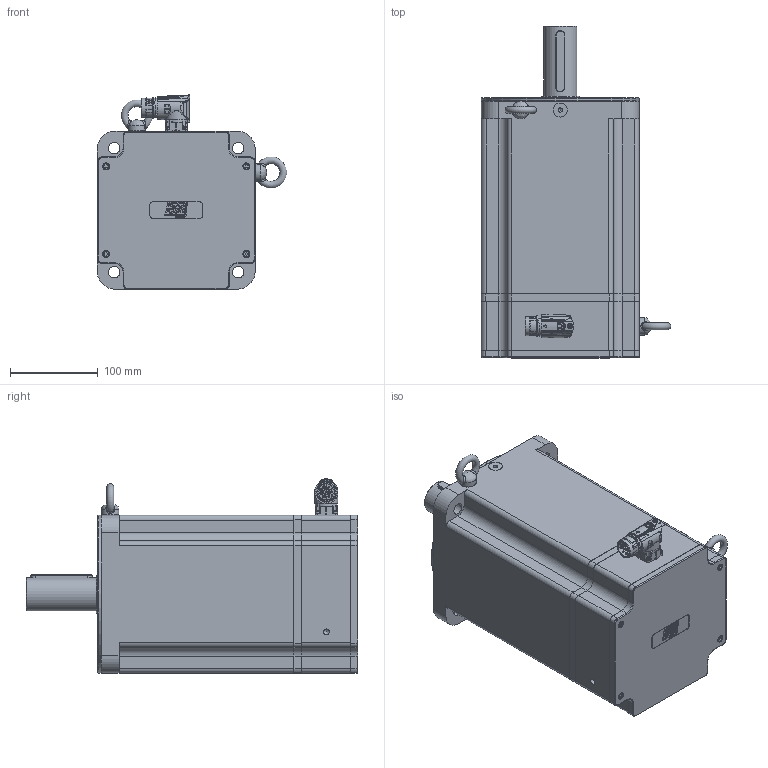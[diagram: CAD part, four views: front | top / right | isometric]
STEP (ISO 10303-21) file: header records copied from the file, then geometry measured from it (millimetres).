
FILE_DESCRIPTION(/* description */ ('Unknown'),/* implementation_level */ '2;1');
FILE_NAME(/* name */ 'TC4-180.7E.X X.X.3.XX.0.X.C21 Q0B807',/* time_stamp */ '2026-03-10T10:59:41+01:00',/* author */ ('Unknown'),/* organization */ ('Unknown'),/* preprocessor_version */ 'ST-DEVELOPER v19.4',/* originating_system */ 'Solid Edge',/* authorisation */ 'Unknown');
FILE_SCHEMA (('AUTOMOTIVE_DESIGN {1 0 10303 214 3 1 1}'));
Products named in the file (14): Q0B807 7E VUOTO; Calotta TC4-180 V8; 003251040631; 005911000479; 003155002233; 005113001040; 005119001064; 005911000185; Coperchio campana TC4-180; 005911000180; 005321000010; 007117000456; Corpo TC4-180 7E; 003003199967
Assembly tree (27 placements, depth 2):
  Q0B807 7E VUOTO
    Calotta TC4-180 V8
    003251040631
    005911000479  x8
    003155002233
    005113001040
    005119001064
    005911000185  x4
    Coperchio campana TC4-180
    005911000180  x4
    005321000010  x2
    007117000456
    Corpo TC4-180 7E
    003003199967
Bounding box: 215.97 x 378.5 x 221.5 mm (x, y, z)
Volume: 3694871.4 mm3; surface area: 738138 mm2
Topology: 29 solids, 29 shells, 1740 faces, 4360 edges, 2784 vertices
Faces by surface type: plane 767, cylinder 384, bspline 227, cone 197, torus 129, sphere 36
Full cylindrical faces by diameter (mm): 1 x4, 1.4 x4, 2 x4, 2.013 x8, 2.5 x4, 2.8 x4, 3 x8, 3.242 x8, 4 x5, 4.134 x24, 4.2 x8, 4.5 x9, 4.7 x4, 4.917 x2, 5 x8, 5.5 x9, 5.8 x1, 5.9 x1, 6.647 x14, 6.8 x1, 7 x6, 8 x6, 9 x4, 10 x3, 10.106 x2, 16 x1, 17.4 x1, 19.9 x1, 20 x3, 21.15 x2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
Entity records: 59852 total; most frequent: CARTESIAN_POINT 15592, ORIENTED_EDGE 6956, DIRECTION 6631, EDGE_CURVE 3478, AXIS2_PLACEMENT_3D 2515, VERTEX_POINT 2407, FACE_BOUND 2037, EDGE_LOOP 2010
